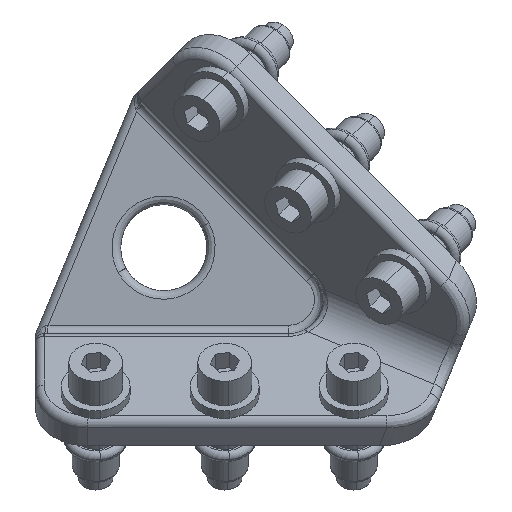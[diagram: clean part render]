
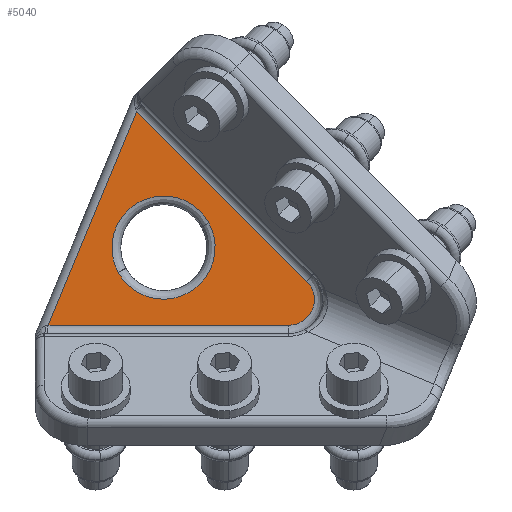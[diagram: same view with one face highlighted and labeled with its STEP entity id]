
A CAD part, front view. The second image highlights one B-rep face of the part: STEP entity #5040.
In plain terms, the highlighted planar face has unit normal (-0.032, -0.999, 0.013).
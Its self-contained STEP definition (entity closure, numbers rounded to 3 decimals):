
#2583=CARTESIAN_POINT('Vertex',(-191.093,-6.067,49.973)) ;
#2586=CARTESIAN_POINT('Line Origine',(-180.777,-6.067,74.88)) ;
#2590=CARTESIAN_POINT('Vertex',(-170.46,-6.067,99.787)) ;
#4935=CARTESIAN_POINT('Axis2P3D Location',(-171.12,-6.,103.238)) ;
#4940=CARTESIAN_POINT('Line Origine',(-163.112,-6.97,49.973)) ;
#4944=CARTESIAN_POINT('Vertex',(-135.131,-7.873,49.973)) ;
#4948=CARTESIAN_POINT('Control Point',(-135.131,-7.873,49.973)) ;
#4949=CARTESIAN_POINT('Control Point',(-134.532,-7.892,49.973)) ;
#4950=CARTESIAN_POINT('Control Point',(-133.932,-7.911,50.048)) ;
#4951=CARTESIAN_POINT('Control Point',(-133.344,-7.928,50.198)) ;
#4952=CARTESIAN_POINT('Control Point',(-132.22,-7.958,50.642)) ;
#4953=CARTESIAN_POINT('Control Point',(-131.238,-7.98,51.348)) ;
#4954=CARTESIAN_POINT('Control Point',(-130.795,-7.989,51.762)) ;
#4955=CARTESIAN_POINT('Control Point',(-130.02,-8.001,52.69)) ;
#4956=CARTESIAN_POINT('Control Point',(-129.498,-8.004,53.78)) ;
#4957=CARTESIAN_POINT('Control Point',(-129.307,-8.002,54.355)) ;
#4958=CARTESIAN_POINT('Control Point',(-129.072,-7.994,55.542)) ;
#4959=CARTESIAN_POINT('Control Point',(-129.136,-7.976,56.749)) ;
#4960=CARTESIAN_POINT('Control Point',(-129.244,-7.964,57.345)) ;
#4961=CARTESIAN_POINT('Control Point',(-129.554,-7.941,58.334)) ;
#4962=CARTESIAN_POINT('Control Point',(-130.065,-7.913,59.23)) ;
#4963=CARTESIAN_POINT('Control Point',(-130.311,-7.9,59.584)) ;
#4964=CARTESIAN_POINT('Control Point',(-130.586,-7.887,59.913)) ;
#4965=CARTESIAN_POINT('Control Point',(-130.889,-7.873,60.216)) ;
#4966=CARTESIAN_POINT('Vertex',(-130.889,-7.873,60.216)) ;
#4969=CARTESIAN_POINT('Line Origine',(-150.674,-6.97,80.001)) ;
#4981=CARTESIAN_POINT('Control Point',(-153.7,-6.956,73.78)) ;
#4982=CARTESIAN_POINT('Control Point',(-154.27,-6.923,74.822)) ;
#4983=CARTESIAN_POINT('Control Point',(-154.968,-6.888,75.794)) ;
#4984=CARTESIAN_POINT('Control Point',(-155.784,-6.85,76.674)) ;
#4985=CARTESIAN_POINT('Control Point',(-157.616,-6.77,78.214)) ;
#4986=CARTESIAN_POINT('Control Point',(-159.769,-6.687,79.261)) ;
#4987=CARTESIAN_POINT('Control Point',(-160.905,-6.645,79.649)) ;
#4988=CARTESIAN_POINT('Control Point',(-163.249,-6.563,80.134)) ;
#4989=CARTESIAN_POINT('Control Point',(-165.641,-6.487,80.033)) ;
#4990=CARTESIAN_POINT('Control Point',(-166.824,-6.451,79.834)) ;
#4991=CARTESIAN_POINT('Control Point',(-169.117,-6.387,79.148)) ;
#4992=CARTESIAN_POINT('Control Point',(-171.173,-6.337,77.923)) ;
#4993=CARTESIAN_POINT('Control Point',(-172.12,-6.316,77.186)) ;
#4994=CARTESIAN_POINT('Control Point',(-173.812,-6.284,75.493)) ;
#4995=CARTESIAN_POINT('Control Point',(-175.04,-6.272,73.439)) ;
#4996=CARTESIAN_POINT('Control Point',(-175.524,-6.271,72.341)) ;
#4997=CARTESIAN_POINT('Control Point',(-176.208,-6.279,70.048)) ;
#4998=CARTESIAN_POINT('Control Point',(-176.314,-6.308,67.657)) ;
#4999=CARTESIAN_POINT('Control Point',(-176.218,-6.327,66.46)) ;
#5000=CARTESIAN_POINT('Control Point',(-175.89,-6.359,64.881)) ;
#5001=CARTESIAN_POINT('Control Point',(-175.309,-6.397,63.387)) ;
#5002=CARTESIAN_POINT('Control Point',(-175.143,-6.408,63.007)) ;
#5003=CARTESIAN_POINT('Control Point',(-174.96,-6.419,62.636)) ;
#5004=CARTESIAN_POINT('Control Point',(-174.762,-6.43,62.274)) ;
#5005=CARTESIAN_POINT('Vertex',(-153.7,-6.956,73.78)) ;
#5007=CARTESIAN_POINT('Vertex',(-174.762,-6.43,62.274)) ;
#5011=CARTESIAN_POINT('Control Point',(-174.762,-6.43,62.274)) ;
#5012=CARTESIAN_POINT('Control Point',(-174.192,-6.462,61.231)) ;
#5013=CARTESIAN_POINT('Control Point',(-173.494,-6.498,60.259)) ;
#5014=CARTESIAN_POINT('Control Point',(-172.678,-6.536,59.379)) ;
#5015=CARTESIAN_POINT('Control Point',(-170.846,-6.616,57.839)) ;
#5016=CARTESIAN_POINT('Control Point',(-168.693,-6.699,56.792)) ;
#5017=CARTESIAN_POINT('Control Point',(-167.557,-6.741,56.405)) ;
#5018=CARTESIAN_POINT('Control Point',(-165.213,-6.823,55.92)) ;
#5019=CARTESIAN_POINT('Control Point',(-162.822,-6.899,56.021)) ;
#5020=CARTESIAN_POINT('Control Point',(-161.638,-6.934,56.22)) ;
#5021=CARTESIAN_POINT('Control Point',(-159.345,-6.999,56.906)) ;
#5022=CARTESIAN_POINT('Control Point',(-157.288,-7.049,58.13)) ;
#5023=CARTESIAN_POINT('Control Point',(-156.341,-7.07,58.868)) ;
#5024=CARTESIAN_POINT('Control Point',(-154.65,-7.102,60.56)) ;
#5025=CARTESIAN_POINT('Control Point',(-153.422,-7.114,62.614)) ;
#5026=CARTESIAN_POINT('Control Point',(-152.938,-7.115,63.713)) ;
#5027=CARTESIAN_POINT('Control Point',(-152.253,-7.106,66.006)) ;
#5028=CARTESIAN_POINT('Control Point',(-152.148,-7.078,68.397)) ;
#5029=CARTESIAN_POINT('Control Point',(-152.244,-7.059,69.593)) ;
#5030=CARTESIAN_POINT('Control Point',(-152.572,-7.027,71.173)) ;
#5031=CARTESIAN_POINT('Control Point',(-153.153,-6.988,72.666)) ;
#5032=CARTESIAN_POINT('Control Point',(-153.319,-6.978,73.046)) ;
#5033=CARTESIAN_POINT('Control Point',(-153.502,-6.967,73.417)) ;
#5034=CARTESIAN_POINT('Control Point',(-153.7,-6.956,73.78)) ;
#2587=DIRECTION('Vector Direction',(-0.383,0.,-0.924)) ;
#4936=DIRECTION('Axis2P3D Direction',(-0.032,-0.999,0.013)) ;
#4937=DIRECTION('Axis2P3D XDirection',(-0.383,0.,-0.924)) ;
#4941=DIRECTION('Vector Direction',(-0.999,0.032,0.)) ;
#4970=DIRECTION('Vector Direction',(0.707,-0.032,-0.707)) ;
#4938=AXIS2_PLACEMENT_3D('Plane Axis2P3D',#4935,#4936,#4937) ;
#4975=ORIENTED_EDGE('',*,*,#2592,.F.) ;
#4976=ORIENTED_EDGE('',*,*,#4946,.T.) ;
#4977=ORIENTED_EDGE('',*,*,#4968,.T.) ;
#4978=ORIENTED_EDGE('',*,*,#4973,.T.) ;
#5037=ORIENTED_EDGE('',*,*,#5009,.F.) ;
#5038=ORIENTED_EDGE('',*,*,#5035,.F.) ;
#5039=FACE_BOUND('',#5036,.T.) ;
#2588=VECTOR('Line Direction',#2587,1.) ;
#4942=VECTOR('Line Direction',#4941,1.) ;
#4971=VECTOR('Line Direction',#4970,1.) ;
#5040=ADVANCED_FACE('PartBody',(#4979,#5039),#4939,.T.) ;
#4947=B_SPLINE_CURVE_WITH_KNOTS('',5,(#4948,#4949,#4950,#4951,#4952,#4953,#4954,#4955,#4956,#4957,#4958,#4959,#4960,#4961,#4962,#4963,#4964,#4965),.UNSPECIFIED.,.F.,.U.,(6,3,3,3,3,6),(0.,4.255,8.509,12.762,17.017,20.053),.UNSPECIFIED.) ;
#4980=B_SPLINE_CURVE_WITH_KNOTS('',5,(#4981,#4982,#4983,#4984,#4985,#4986,#4987,#4988,#4989,#4990,#4991,#4992,#4993,#4994,#4995,#4996,#4997,#4998,#4999,#5000,#5001,#5002,#5003,#5004),.UNSPECIFIED.,.F.,.U.,(6,3,3,3,3,3,3,6),(0.,8.475,16.952,25.426,33.897,42.366,50.837,53.785),.UNSPECIFIED.) ;
#5010=B_SPLINE_CURVE_WITH_KNOTS('',5,(#5011,#5012,#5013,#5014,#5015,#5016,#5017,#5018,#5019,#5020,#5021,#5022,#5023,#5024,#5025,#5026,#5027,#5028,#5029,#5030,#5031,#5032,#5033,#5034),.UNSPECIFIED.,.F.,.U.,(6,3,3,3,3,3,3,6),(0.,8.471,16.942,25.413,33.878,42.341,50.808,53.754),.UNSPECIFIED.) ;
#2592=EDGE_CURVE('',#2584,#2591,#2589,.F.) ;
#4946=EDGE_CURVE('',#2584,#4945,#4943,.F.) ;
#4968=EDGE_CURVE('',#4945,#4967,#4947,.T.) ;
#4973=EDGE_CURVE('',#4967,#2591,#4972,.F.) ;
#5009=EDGE_CURVE('',#5006,#5008,#4980,.T.) ;
#5035=EDGE_CURVE('',#5008,#5006,#5010,.T.) ;
#4974=EDGE_LOOP('',(#4975,#4976,#4977,#4978)) ;
#5036=EDGE_LOOP('',(#5037,#5038)) ;
#4979=FACE_OUTER_BOUND('',#4974,.T.) ;
#2589=LINE('Line',#2586,#2588) ;
#4943=LINE('Line',#4940,#4942) ;
#4972=LINE('Line',#4969,#4971) ;
#4939=PLANE('',#4938) ;
#2584=VERTEX_POINT('',#2583) ;
#2591=VERTEX_POINT('',#2590) ;
#4945=VERTEX_POINT('',#4944) ;
#4967=VERTEX_POINT('',#4966) ;
#5006=VERTEX_POINT('',#5005) ;
#5008=VERTEX_POINT('',#5007) ;
